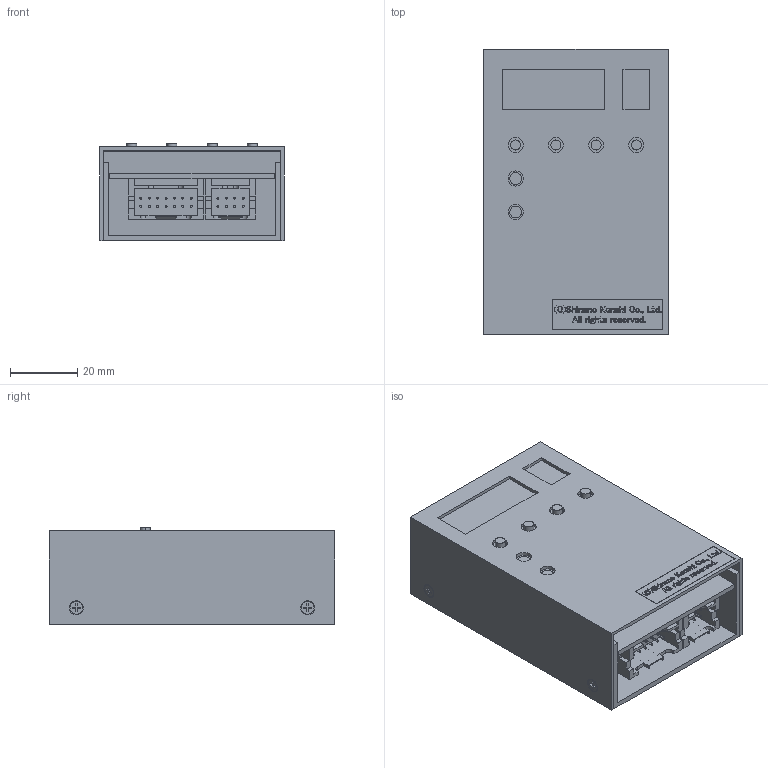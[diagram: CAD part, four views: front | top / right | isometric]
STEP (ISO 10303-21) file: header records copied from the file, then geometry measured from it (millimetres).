
FILE_DESCRIPTION (( 'STEP AP214' ), '1' );
FILE_NAME ('PDSA-UR.STEP', '2021-12-24T04:10:58', ( '' ), ( '' ), 'SwSTEP 2.0', 'SolidWorks 2018', '' );
FILE_SCHEMA (( 'AUTOMOTIVE_DESIGN' ));
Length unit declared in the file: millimetre
Products named in the file (1): PDSA-UR
Bounding box: 55 x 85 x 29 mm (x, y, z)
Volume: 114649 mm3; surface area: 42339.8 mm2
Topology: 11 solids, 11 shells, 1388 faces, 3816 edges, 2544 vertices
Faces by surface type: plane 1288, cylinder 100
Entity records: 43496 total; most frequent: CARTESIAN_POINT 7749, ORIENTED_EDGE 7632, DIRECTION 6794, EDGE_CURVE 3816, VECTOR 3616, LINE 3616, VERTEX_POINT 2544, AXIS2_PLACEMENT_3D 1589
